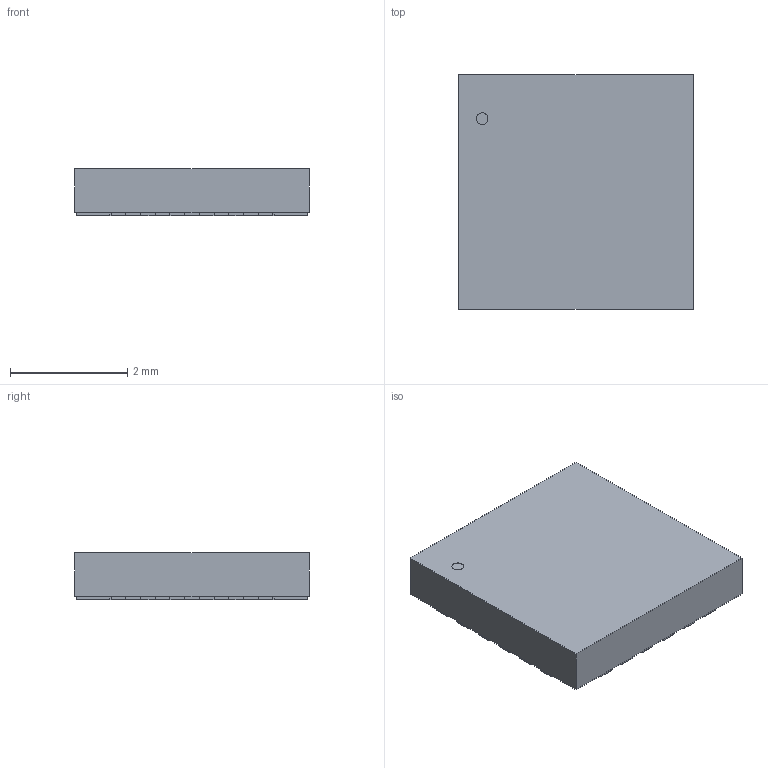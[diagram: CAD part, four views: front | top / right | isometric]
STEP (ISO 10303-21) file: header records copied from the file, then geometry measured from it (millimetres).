
FILE_DESCRIPTION(('STEP AP214'),'1');
FILE_NAME('QFN24_4X4','2026-10-21T10:29:57',(''),(''),'','','');
FILE_SCHEMA(('AUTOMOTIVE_DESIGN'));
Length unit declared in the file: millimetre
Products named in the file (1): product
Bounding box: 4 x 4 x 0.8 mm (x, y, z)
Volume: 12.7 mm3; surface area: 74.8 mm2
Topology: 27 solids, 27 shells, 207 faces, 459 edges, 306 vertices
Faces by surface type: plane 182, cylinder 25
Full cylindrical faces by diameter (mm): 0.2 x1
Entity records: 5557 total; most frequent: DIRECTION 926, ORIENTED_EDGE 916, CARTESIAN_POINT 565, EDGE_CURVE 458, LINE 408, VECTOR 408, VERTEX_POINT 306, AXIS2_PLACEMENT_3D 259
